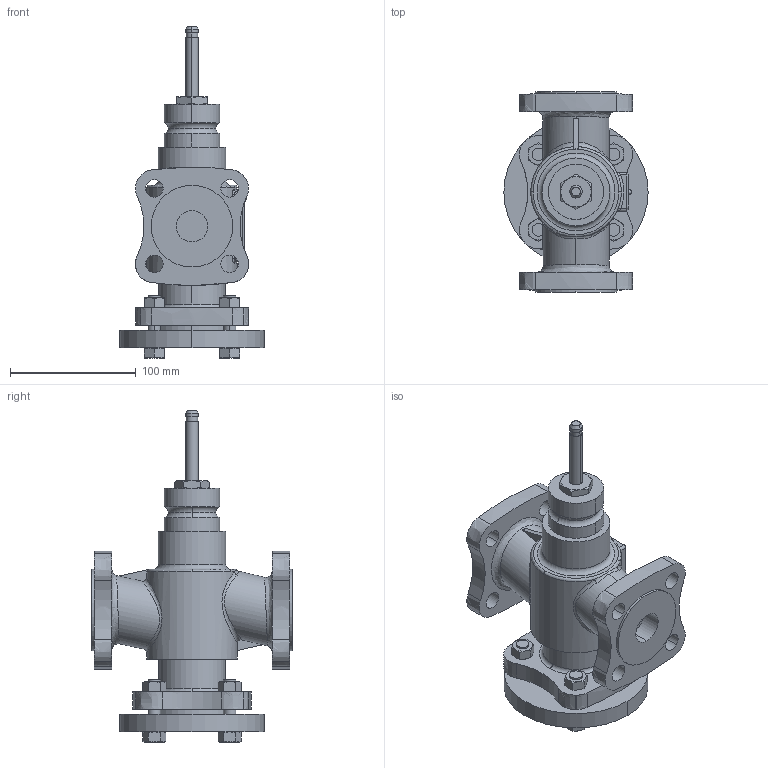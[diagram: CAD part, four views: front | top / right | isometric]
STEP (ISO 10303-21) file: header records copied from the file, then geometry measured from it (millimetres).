
FILE_DESCRIPTION(/* description */ ('Step214'),/* implementation_level */ '2;1');
FILE_NAME(/* name */ 'VVF53 DN25.stp',/* time_stamp */ '2015-11-10T13:48:14+01:00',/* author */ (''),/* organization */ ('Siemens'),/* preprocessor_version */ 'ST-DEVELOPER v15',/* originating_system */ 'SIEMENS PLM Software NX 8.5',/* authorisation */ 'for Duktil only');
FILE_SCHEMA (('AUTOMOTIVE_DESIGN { 1 0 10303 214 3 1 1 1 }'));
Length unit declared in the file: millimetre
Products named in the file (1): Volc19F47525lfh6
Bounding box: 115 x 160 x 264.5 mm (x, y, z)
Volume: 1090251.1 mm3; surface area: 134791.5 mm2
Topology: 1 solids, 2 shells, 290 faces, 741 edges, 487 vertices
Faces by surface type: plane 108, cylinder 90, cone 38, extrusion 31, torus 11, bspline 10, sphere 2
Full cylindrical faces by diameter (mm): 54 x1
Entity records: 11905 total; most frequent: CARTESIAN_POINT 5246, ORIENTED_EDGE 1466, DIRECTION 1271, EDGE_CURVE 733, AXIS2_PLACEMENT_3D 497, VERTEX_POINT 485, EDGE_LOOP 352, ADVANCED_FACE 290
